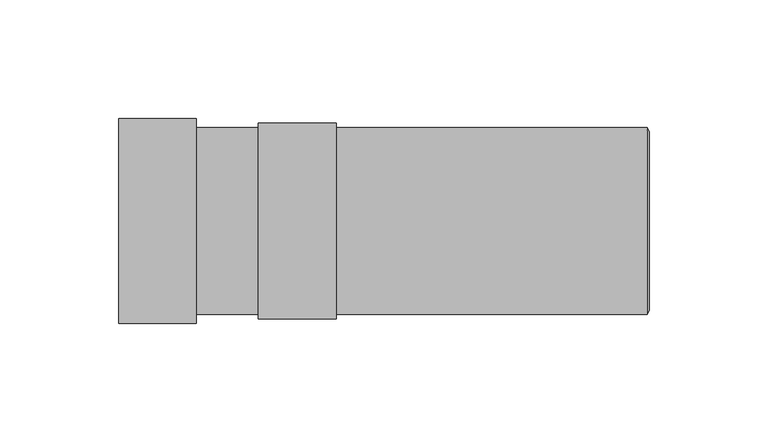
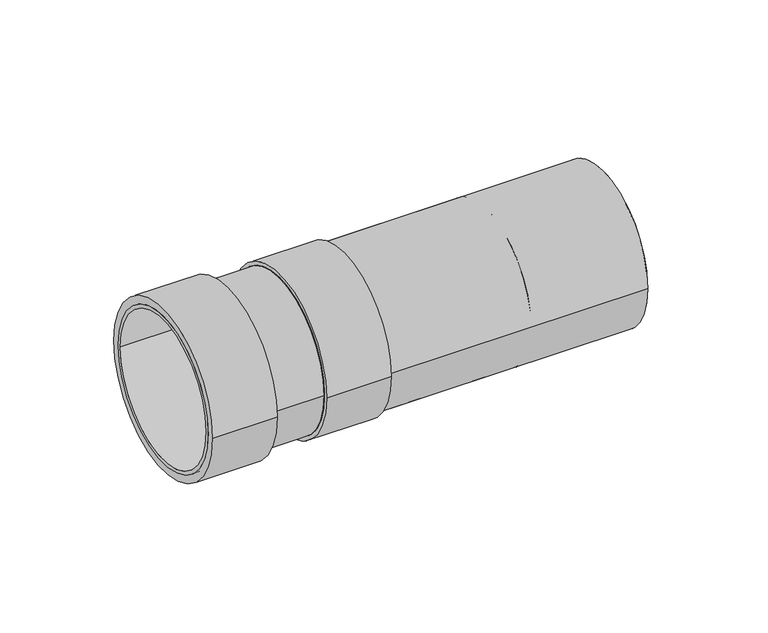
"""IFC4 building model written with IfcOpenShell, lengths in millimetres: pipe fitting geometry, Superdrain HTL-Long socket : Superdrain HTL-Long socket."""

from ifc_helpers import new_model, si_unit, point, frame, origin, origin_2d, place, context, project, spatial, polyline, circle_curve, trimmed, segment, composite_curve, outline, extrude, source, transform, mapped, element, save
from ifc_brep_helpers import plane_surface, revolved_surface, advanced_brep


def pipe_fitting_202c8df2(model_context):
    return source(origin(), model_context, "Body", "SolidModel", [
        extrude(outline(composite_curve([segment(trimmed(circle_curve(origin_2d(), 39.375), [point((-39.375, 0.0))], [point((39.375, 0.0))], False, "CARTESIAN"), True, "CONTINUOUS"), segment(trimmed(circle_curve(origin_2d(), 39.375), [point((39.375, 0.0))], [point((-39.375, 0.0))], False, "CARTESIAN"), True, "CONTINUOUS")], self_intersect=False), holes=[composite_curve([segment(trimmed(circle_curve(origin_2d(), 37.5), [point((-37.5, 0.0))], [point((37.5, 0.0))], True, "CARTESIAN"), True, "CONTINUOUS"), segment(trimmed(circle_curve(origin_2d(), 37.5), [point((37.5, 0.0))], [point((-37.5, 0.0))], True, "CARTESIAN"), True, "CONTINUOUS")], self_intersect=False)]), frame((-109.0, 0.0, 0.0), z_axis=(1.0, 0.0, 0.0), x_axis=(0.0, 1.0, 0.0)), (0.0, 0.0, 1.0), 164.0),
        extrude(outline(composite_curve([segment(trimmed(circle_curve(origin_2d(), 41.34375), [point((-41.34375, 0.0))], [point((41.34375, 0.0))], False, "CARTESIAN"), True, "CONTINUOUS"), segment(trimmed(circle_curve(origin_2d(), 41.34375), [point((41.34375, 0.0))], [point((-41.34375, 0.0))], False, "CARTESIAN"), True, "CONTINUOUS")], self_intersect=False), holes=[composite_curve([segment(trimmed(circle_curve(origin_2d(), 37.5), [point((-37.5, 0.0))], [point((37.5, 0.0))], True, "CARTESIAN"), True, "CONTINUOUS"), segment(trimmed(circle_curve(origin_2d(), 37.5), [point((37.5, 0.0))], [point((-37.5, 0.0))], True, "CARTESIAN"), True, "CONTINUOUS")], self_intersect=False)]), frame((-109.0, 0.0, 0.0), z_axis=(1.0, 0.0, 0.0), x_axis=(0.0, 1.0, 0.0)), (0.0, 0.0, 1.0), 32.8),
        advanced_brep(
        [(56.0, -37.5, 0.0), (56.0, 37.5, 0.0), (55.0, -39.375, 0.0), (55.0, 39.375, 0.0)],
        [
            (0, 1, circle_curve(frame((56.0, 0.0, 0.0), z_axis=(1.0, 0.0, 0.0), x_axis=(0.0, -1.0, 0.0)), 37.5)),
            (1, 0, circle_curve(frame((56.0, 0.0, 0.0), z_axis=(1.0, 0.0, 0.0), x_axis=(0.0, 1.0, 0.0)), 37.5)),
            (2, 3, circle_curve(frame((55.0, 0.0, 0.0), z_axis=(-1.0, 0.0, 0.0), x_axis=(0.0, 1.0, 0.0)), 39.375)),
            (3, 2, circle_curve(frame((55.0, 0.0, 0.0), z_axis=(-1.0, 0.0, 0.0), x_axis=(0.0, -1.0, 0.0)), 39.375)),
            (3, 1),
            (0, 2),
        ],
        [
            plane_surface(frame((56.0, 0.0, 0.0), z_axis=(1.0, 0.0, 0.0), x_axis=(0.0, 0.0, -1.0))),
            plane_surface(frame((55.0, 0.0, 0.0), z_axis=(-1.0, 0.0, 0.0), x_axis=(0.0, 0.0, -1.0))),
            revolved_surface(polyline([(56.0, -37.5, 0.0), (55.0, -39.375, 0.0)]), (76.0, 0.0, 0.0), (-1.0, 0.0, 0.0)),
            revolved_surface(polyline([(56.0, 37.5, 0.0), (55.0, 39.375, 0.0)]), (76.0, 0.0, 0.0), (-1.0, 0.0, 0.0)),
        ],
        [
            (0, [[1, 2]]),
            (1, [[3, 4]]),
            (2, [[-4, 5, -1, 6]]),
            (3, [[-3, -6, -2, -5]]),
        ],
    ),
        extrude(outline(composite_curve([segment(trimmed(circle_curve(origin_2d(), 39.375), [point((-39.375, 0.0))], [point((39.375, 0.0))], False, "CARTESIAN"), True, "CONTINUOUS"), segment(trimmed(circle_curve(origin_2d(), 39.375), [point((39.375, 0.0))], [point((-39.375, 0.0))], False, "CARTESIAN"), True, "CONTINUOUS")], self_intersect=False), holes=[composite_curve([segment(trimmed(circle_curve(origin_2d(), 37.5), [point((-37.5, 0.0))], [point((37.5, 0.0))], True, "CARTESIAN"), True, "CONTINUOUS"), segment(trimmed(circle_curve(origin_2d(), 37.5), [point((37.5, 0.0))], [point((-37.5, 0.0))], True, "CARTESIAN"), True, "CONTINUOUS")], self_intersect=False)]), frame((-168.0, 0.0, 0.0), z_axis=(1.0, 0.0, 0.0), x_axis=(0.0, 1.0, 0.0)), (0.0, 0.0, 1.0), 164.0),
        extrude(outline(composite_curve([segment(trimmed(circle_curve(origin_2d(), 43.3125), [point((-43.3125, 0.0))], [point((43.3125, 0.0))], False, "CARTESIAN"), True, "CONTINUOUS"), segment(trimmed(circle_curve(origin_2d(), 43.3125), [point((43.3125, 0.0))], [point((-43.3125, 0.0))], False, "CARTESIAN"), True, "CONTINUOUS")], self_intersect=False), holes=[composite_curve([segment(trimmed(circle_curve(origin_2d(), 37.5), [point((-37.5, 0.0))], [point((37.5, 0.0))], True, "CARTESIAN"), True, "CONTINUOUS"), segment(trimmed(circle_curve(origin_2d(), 37.5), [point((37.5, 0.0))], [point((-37.5, 0.0))], True, "CARTESIAN"), True, "CONTINUOUS")], self_intersect=False)]), frame((-168.0, 0.0, 0.0), z_axis=(1.0, 0.0, 0.0), x_axis=(0.0, 1.0, 0.0)), (0.0, 0.0, 1.0), 32.8),
        advanced_brep(
        [(-3.0, -37.5, 0.0), (-3.0, 37.5, 0.0), (-4.0, -39.375, 0.0), (-4.0, 39.375, 0.0)],
        [
            (0, 1, circle_curve(frame((-3.0, 0.0, 0.0), z_axis=(1.0, 0.0, 0.0), x_axis=(0.0, -1.0, 0.0)), 37.5)),
            (1, 0, circle_curve(frame((-3.0, 0.0, 0.0), z_axis=(1.0, 0.0, 0.0), x_axis=(0.0, 1.0, 0.0)), 37.5)),
            (2, 3, circle_curve(frame((-4.0, 0.0, 0.0), z_axis=(-1.0, 0.0, 0.0), x_axis=(0.0, 1.0, 0.0)), 39.375)),
            (3, 2, circle_curve(frame((-4.0, 0.0, 0.0), z_axis=(-1.0, 0.0, 0.0), x_axis=(0.0, -1.0, 0.0)), 39.375)),
            (3, 1),
            (0, 2),
        ],
        [
            plane_surface(frame((-3.0, 0.0, 0.0), z_axis=(1.0, 0.0, 0.0), x_axis=(0.0, 0.0, -1.0))),
            plane_surface(frame((-4.0, 0.0, 0.0), z_axis=(-1.0, 0.0, 0.0), x_axis=(0.0, 0.0, -1.0))),
            revolved_surface(polyline([(-3.0, -37.5, 0.0), (-4.0, -39.375, 0.0)]), (17.0, 0.0, 0.0), (-1.0, 0.0, 0.0)),
            revolved_surface(polyline([(-3.0, 37.5, 0.0), (-4.0, 39.375, 0.0)]), (17.0, 0.0, 0.0), (-1.0, 0.0, 0.0)),
        ],
        [
            (0, [[1, 2]]),
            (1, [[3, 4]]),
            (2, [[-4, 5, -1, 6]]),
            (3, [[-3, -6, -2, -5]]),
        ],
    ),
        extrude(outline(composite_curve([segment(trimmed(circle_curve(origin_2d(), 37.5), [point((-37.5, 0.0))], [point((37.5, 0.0))], False, "CARTESIAN"), True, "CONTINUOUS"), segment(trimmed(circle_curve(origin_2d(), 37.5), [point((37.5, 0.0))], [point((-37.5, 0.0))], False, "CARTESIAN"), True, "CONTINUOUS")], self_intersect=False)), frame((-4.0, 0.0, 0.0), z_axis=(1.0, 0.0, 0.0), x_axis=(0.0, 1.0, 0.0)), (0.0, 0.0, 1.0), 59.0),
    ])


if __name__ == "__main__":
    model = new_model("IFC4")
    model_context = context("Model", 3, world=origin())
    ifc_project = project(units=[si_unit("LENGTHUNIT", "METRE", prefix="MILLI")], contexts=[model_context])
    site = spatial("IfcSite", under=ifc_project)
    building = spatial("IfcBuilding", under=site)
    placement = place(None, origin())
    pipe_fitting_shape = pipe_fitting_202c8df2(model_context)
    element("IfcPipeFitting", 1, ObjectType="Superdrain HTL-Long socket : Superdrain HTL-Long socket", at=placement, inside=building, context=model_context, shape_type="MappedRepresentation", body=[
        mapped(pipe_fitting_shape, transform((0.0, 0.0, 0.0), x_axis=(1.0, 0.0, 0.0), y_axis=(0.0, 1.0, 0.0), z_axis=(0.0, 0.0, 1.0))),
    ])
    save(model, "model.ifc")
